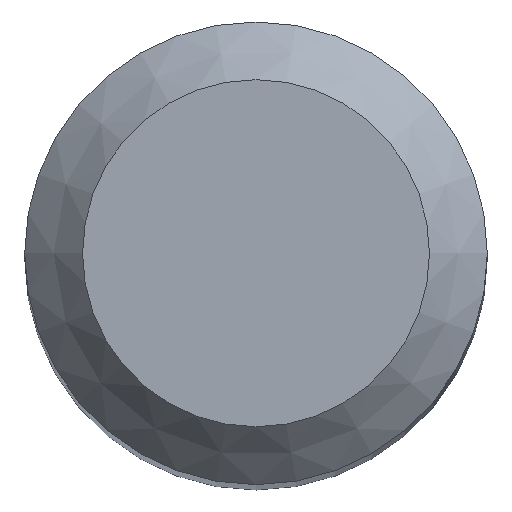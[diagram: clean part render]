
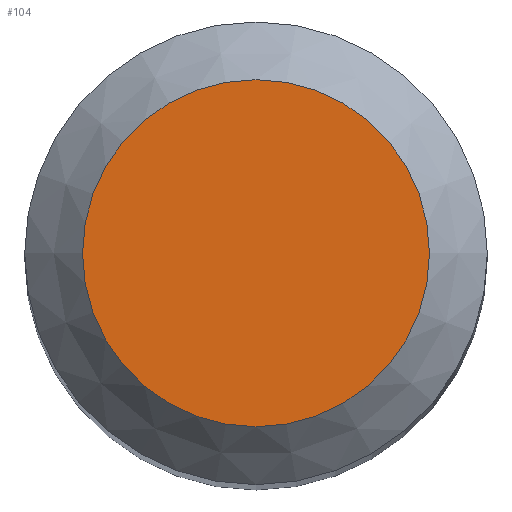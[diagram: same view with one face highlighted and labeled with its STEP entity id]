
A CAD part, top view. The second image highlights one B-rep face of the part: STEP entity #104.
In plain terms, the highlighted planar face has unit normal (0, 0, 1).
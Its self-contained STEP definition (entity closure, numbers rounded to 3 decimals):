
#88=CARTESIAN_POINT('',(1.5,0.0,40.0));
#89=DIRECTION('',(0.0,0.0,1.0));
#90=DIRECTION('',(1.0,0.0,0.0));
#91=AXIS2_PLACEMENT_3D('',#88,#89,#90);
#92=PLANE('',#91);
#93=CARTESIAN_POINT('',(-1.5,0.0,40.));
#94=VERTEX_POINT('',#93);
#95=CARTESIAN_POINT('',(0.0,0.0,40.));
#96=DIRECTION('',(0.0,0.0,-1.0));
#97=DIRECTION('',(-1.0,0.0,0.0));
#98=AXIS2_PLACEMENT_3D('',#95,#96,#97);
#99=CIRCLE('',#98,1.5);
#100=EDGE_CURVE('',#94,#94,#99,.T.);
#101=ORIENTED_EDGE('',*,*,#100,.F.);
#102=EDGE_LOOP('',(#101));
#103=FACE_OUTER_BOUND('',#102,.T.);
#104=ADVANCED_FACE('',(#103),#92,.T.);
